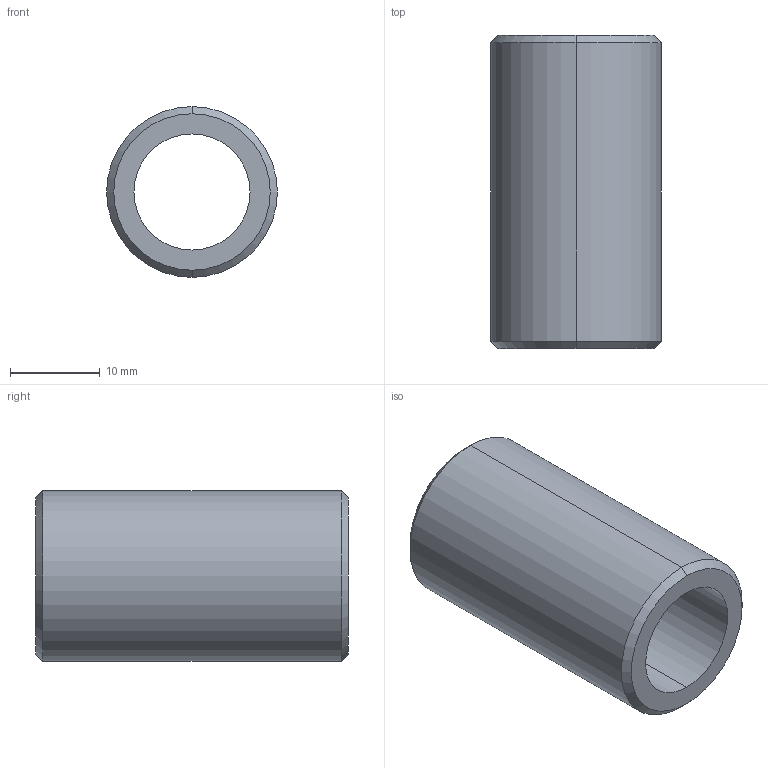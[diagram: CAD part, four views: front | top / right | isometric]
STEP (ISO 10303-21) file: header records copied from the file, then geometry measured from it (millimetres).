
FILE_DESCRIPTION (( 'STEP AP203' ), '1' );
FILE_NAME ('TD7-1375.step', '2014-02-28T02:02:35', ( '' ), ( '' ), 'SwSTEP 2.0', 'SolidWorks 2009', '' );
FILE_SCHEMA (( 'CONFIG_CONTROL_DESIGN' ));
Length unit declared in the file: inch
Products named in the file (1): TD7-1375
Bounding box: 19.06 x 34.92 x 19.06 mm (x, y, z)
Volume: 5320.1 mm3; surface area: 3761.5 mm2
Topology: 1 solids, 1 shells, 10 faces, 20 edges, 12 vertices
Faces by surface type: cylinder 4, cone 4, plane 2
Entity records: 347 total; most frequent: DIRECTION 54, CARTESIAN_POINT 43, ORIENTED_EDGE 40, AXIS2_PLACEMENT_3D 23, EDGE_CURVE 20, EDGE_LOOP 12, VERTEX_POINT 12, CIRCLE 12
